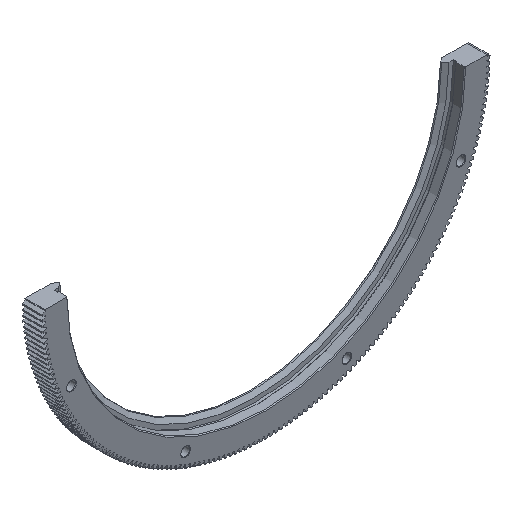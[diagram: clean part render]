
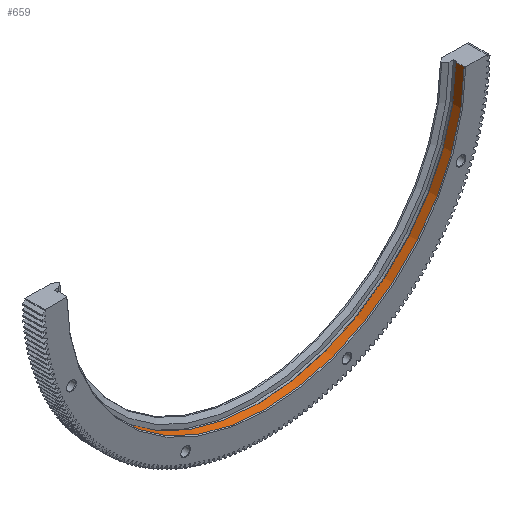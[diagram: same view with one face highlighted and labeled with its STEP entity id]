
A CAD part, isometric view. The second image highlights one B-rep face of the part: STEP entity #659.
In plain terms, the highlighted cylindrical face has radius 123 mm (diameter 246 mm), a partial arc.
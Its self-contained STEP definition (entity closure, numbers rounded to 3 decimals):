
#659 = ADVANCED_FACE( '', ( #2122 ), #2123, .F. );
#2122 = FACE_OUTER_BOUND( '', #3854, .T. );
#2123 = CYLINDRICAL_SURFACE( '', #3855, 123. );
#3854 = EDGE_LOOP( '', ( #10122, #10123, #10124, #10125 ) );
#3855 = AXIS2_PLACEMENT_3D( '', #10126, #10127, #10128 );
#10122 = ORIENTED_EDGE( '', *, *, #14405, .F. );
#10123 = ORIENTED_EDGE( '', *, *, #12029, .T. );
#10124 = ORIENTED_EDGE( '', *, *, #14406, .T. );
#10125 = ORIENTED_EDGE( '', *, *, #13452, .T. );
#10126 = CARTESIAN_POINT( '', ( 0., 0., 0. ) );
#10127 = DIRECTION( '', ( 0., 1., 0. ) );
#10128 = DIRECTION( '', ( 0., 0., -1. ) );
#12029 = EDGE_CURVE( '', #14572, #14570, #14573, .T. );
#13452 = EDGE_CURVE( '', #17405, #17403, #17406, .F. );
#14405 = EDGE_CURVE( '', #14572, #17403, #18625, .T. );
#14406 = EDGE_CURVE( '', #14570, #17405, #18626, .T. );
#14570 = VERTEX_POINT( '', #18808 );
#14572 = VERTEX_POINT( '', #18813 );
#14573 = LINE( '', #18814, #18815 );
#17403 = VERTEX_POINT( '', #22795 );
#17405 = VERTEX_POINT( '', #22798 );
#17406 = LINE( '', #22799, #22800 );
#18625 = CIRCLE( '', #25505, 123. );
#18626 = CIRCLE( '', #25506, 123. );
#18808 = CARTESIAN_POINT( '', ( -122.996, 0.5, -1. ) );
#18813 = CARTESIAN_POINT( '', ( -122.996, 5.75, -1. ) );
#18814 = CARTESIAN_POINT( '', ( -122.996, 0., -1. ) );
#18815 = VECTOR( '', #25655, 1000. );
#22795 = CARTESIAN_POINT( '', ( 122.996, 5.75, -1. ) );
#22798 = CARTESIAN_POINT( '', ( 122.996, 0.5, -1. ) );
#22799 = CARTESIAN_POINT( '', ( 122.996, 0., -1. ) );
#22800 = VECTOR( '', #27669, 1000. );
#25505 = AXIS2_PLACEMENT_3D( '', #28361, #28362, #28363 );
#25506 = AXIS2_PLACEMENT_3D( '', #28364, #28365, #28366 );
#25655 = DIRECTION( '', ( 0., -1., 0. ) );
#27669 = DIRECTION( '', ( 0., -1., 0. ) );
#28361 = CARTESIAN_POINT( '', ( 0., 5.75, 0. ) );
#28362 = DIRECTION( '', ( 0., -1., 0. ) );
#28363 = DIRECTION( '', ( 0., 0., -1. ) );
#28364 = CARTESIAN_POINT( '', ( 0., 0.5, 0. ) );
#28365 = DIRECTION( '', ( 0., -1., 0. ) );
#28366 = DIRECTION( '', ( 0., 0., -1. ) );
